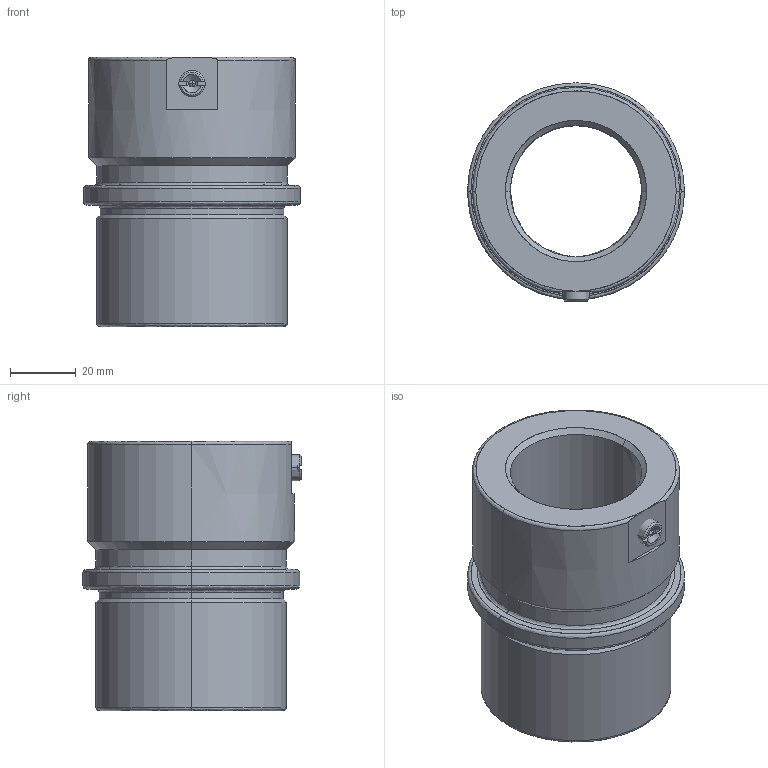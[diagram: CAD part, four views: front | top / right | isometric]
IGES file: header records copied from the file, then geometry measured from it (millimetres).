
Start section: START RECORD GO HERE.
Global section: file name: 744-40.igs; native system: DASSAULT SYSTEMES CATIA V5 R20 - www.3ds.com; preprocessor: CATIA Version 5 Release 20 ; author: Utente; organization: NB04-ASUS; date: 20201223.221410; units: millimetre
Bounding box: 66 x 66.5 x 82 mm (x, y, z)
Surface area: 30923.7 mm2 (no closed solid volume)
Topology: 0 solids, 0 shells, 67 faces, 308 edges, 304 vertices
Faces by surface type: revolution 51, plane 16
